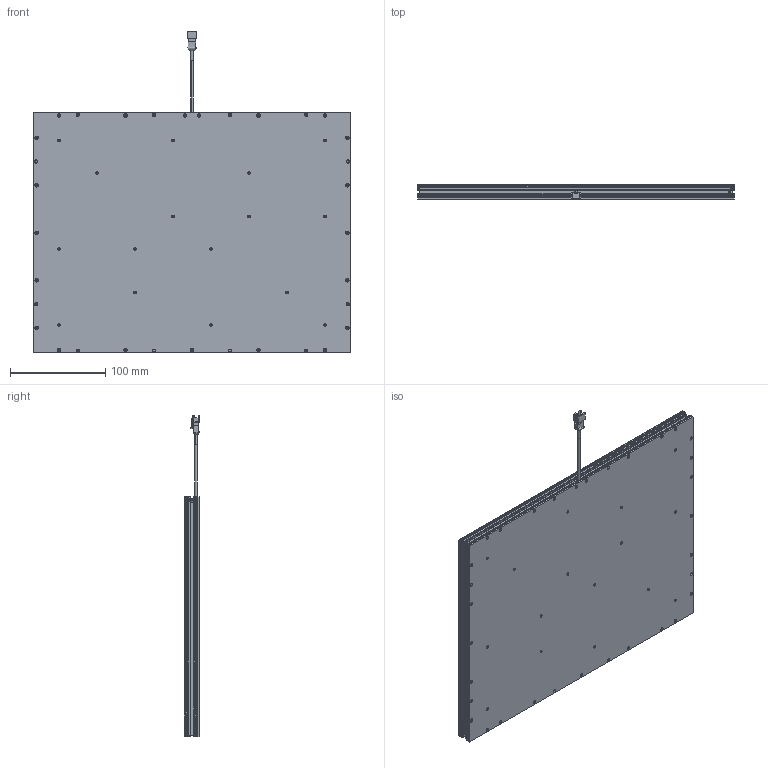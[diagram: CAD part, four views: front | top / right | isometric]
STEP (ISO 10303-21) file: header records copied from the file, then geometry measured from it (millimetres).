
FILE_DESCRIPTION (( 'STEP AP214' ), '1' );
FILE_NAME ('TMDF3008D101A_VDF-320240.STEP', '2023-03-24T08:31:00', ( '' ), ( '' ), 'SwSTEP 2.0', 'SolidWorks 2018', '' );
FILE_SCHEMA (( 'AUTOMOTIVE_DESIGN' ));
Length unit declared in the file: millimetre
Products named in the file (1): TMDF3008D101A_VDF-320240
Bounding box: 333 x 16.55 x 338.88 mm (x, y, z)
Surface area: 306158.4 mm2 (no closed solid volume)
Topology: 0 solids, 71 shells, 738 faces, 2781 edges, 2081 vertices
Faces by surface type: plane 436, cylinder 206, cone 94, bspline 2
Entity records: 38970 total; most frequent: CARTESIAN_POINT 7141, DIRECTION 4944, ORIENTED_EDGE 4195, EDGE_CURVE 2781, VERTEX_POINT 2081, VECTOR 1924, LINE 1924, AXIS2_PLACEMENT_3D 1510
